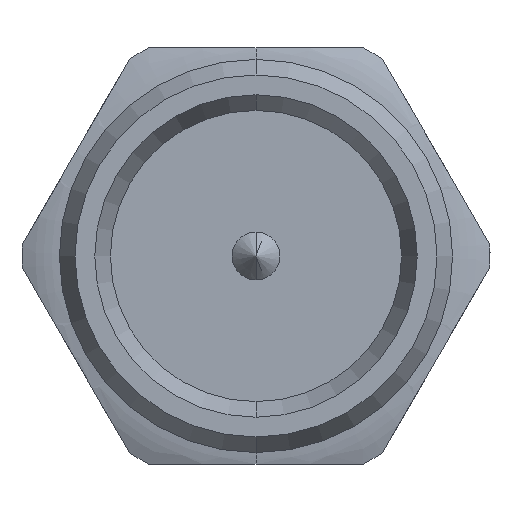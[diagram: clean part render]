
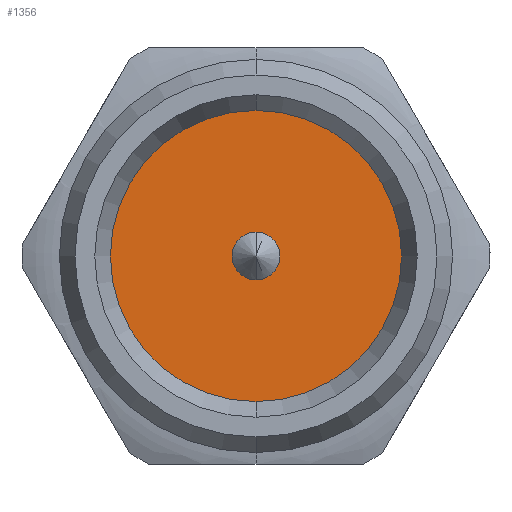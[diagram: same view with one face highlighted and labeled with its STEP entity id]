
A CAD part, left-side view. The second image highlights one B-rep face of the part: STEP entity #1356.
In plain terms, the highlighted planar face has unit normal (-1, 0, 0).
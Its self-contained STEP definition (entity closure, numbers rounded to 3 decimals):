
#43 = CARTESIAN_POINT ( 'NONE',  ( -9.44, 0., -0.46 ) ) ;
#54 = AXIS2_PLACEMENT_3D ( 'NONE', #1103, #478, #1202 ) ;
#68 = CARTESIAN_POINT ( 'NONE',  ( -9.44, 0., 0.073 ) ) ;
#76 = DIRECTION ( 'NONE',  ( -1., 0., 0. ) ) ;
#101 = EDGE_CURVE ( 'NONE', #1037, #804, #958, .T. ) ;
#104 = CIRCLE ( 'NONE', #54, 2.8 ) ;
#117 = ORIENTED_EDGE ( 'NONE', *, *, #101, .F. ) ;
#162 = EDGE_CURVE ( 'NONE', #1088, #482, #592, .T. ) ;
#248 = AXIS2_PLACEMENT_3D ( 'NONE', #1033, #306, #731 ) ;
#266 = DIRECTION ( 'NONE',  ( 1., 0., 0. ) ) ;
#279 = CARTESIAN_POINT ( 'NONE',  ( -9.44, 0., 2.8 ) ) ;
#306 = DIRECTION ( 'NONE',  ( -1., 0., 0. ) ) ;
#335 = AXIS2_PLACEMENT_3D ( 'NONE', #886, #266, #1101 ) ;
#359 = FACE_BOUND ( 'NONE', #1262, .T. ) ;
#364 = EDGE_CURVE ( 'NONE', #482, #1088, #1265, .T. ) ;
#428 = AXIS2_PLACEMENT_3D ( 'NONE', #68, #76, #810 ) ;
#434 = CARTESIAN_POINT ( 'NONE',  ( -9.44, 0., -2.8 ) ) ;
#446 = EDGE_LOOP ( 'NONE', ( #117, #609 ) ) ;
#478 = DIRECTION ( 'NONE',  ( 1., 0., 0. ) ) ;
#482 = VERTEX_POINT ( 'NONE', #519 ) ;
#519 = CARTESIAN_POINT ( 'NONE',  ( -9.44, 0., 0.46 ) ) ;
#527 = ORIENTED_EDGE ( 'NONE', *, *, #162, .F. ) ;
#585 = CARTESIAN_POINT ( 'NONE',  ( -9.44, 0., 0. ) ) ;
#592 = CIRCLE ( 'NONE', #626, 0.46 ) ;
#604 = PLANE ( 'NONE',  #428 ) ;
#606 = FACE_OUTER_BOUND ( 'NONE', #446, .T. ) ;
#609 = ORIENTED_EDGE ( 'NONE', *, *, #852, .F. ) ;
#626 = AXIS2_PLACEMENT_3D ( 'NONE', #585, #691, #1107 ) ;
#691 = DIRECTION ( 'NONE',  ( -1., 0., 0. ) ) ;
#731 = DIRECTION ( 'NONE',  ( 0., 0., 1. ) ) ;
#804 = VERTEX_POINT ( 'NONE', #279 ) ;
#810 = DIRECTION ( 'NONE',  ( 0., 0., 1. ) ) ;
#852 = EDGE_CURVE ( 'NONE', #804, #1037, #104, .T. ) ;
#886 = CARTESIAN_POINT ( 'NONE',  ( -9.44, 0., 0. ) ) ;
#958 = CIRCLE ( 'NONE', #335, 2.8 ) ;
#981 = ORIENTED_EDGE ( 'NONE', *, *, #364, .F. ) ;
#1033 = CARTESIAN_POINT ( 'NONE',  ( -9.44, 0., 0. ) ) ;
#1037 = VERTEX_POINT ( 'NONE', #434 ) ;
#1088 = VERTEX_POINT ( 'NONE', #43 ) ;
#1101 = DIRECTION ( 'NONE',  ( 0., 0., 1. ) ) ;
#1103 = CARTESIAN_POINT ( 'NONE',  ( -9.44, 0., 0. ) ) ;
#1107 = DIRECTION ( 'NONE',  ( 0., 0., 1. ) ) ;
#1202 = DIRECTION ( 'NONE',  ( 0., 0., 1. ) ) ;
#1262 = EDGE_LOOP ( 'NONE', ( #527, #981 ) ) ;
#1265 = CIRCLE ( 'NONE', #248, 0.46 ) ;
#1356 = ADVANCED_FACE ( 'NONE', ( #359, #606 ), #604, .T. ) ;
